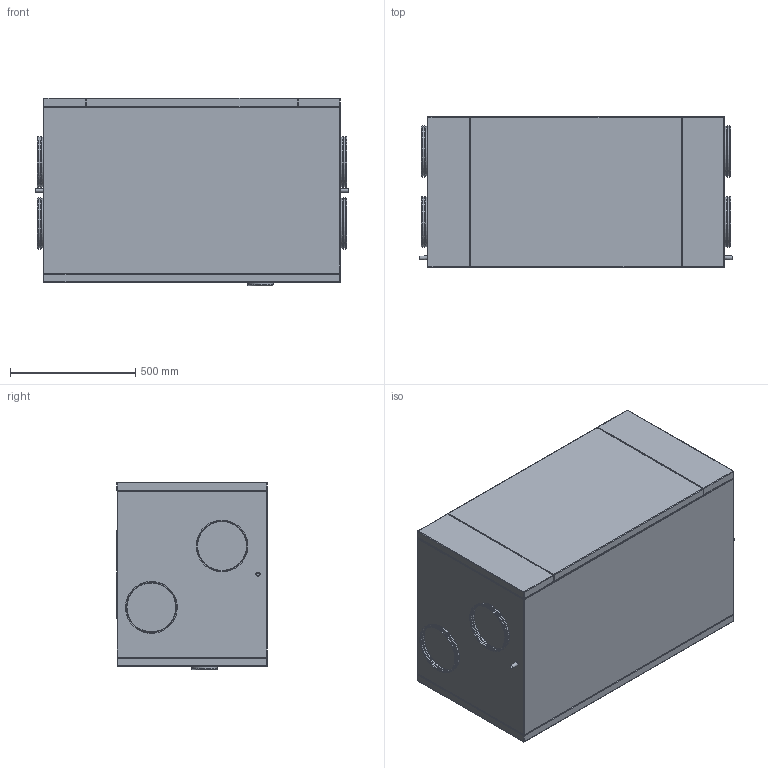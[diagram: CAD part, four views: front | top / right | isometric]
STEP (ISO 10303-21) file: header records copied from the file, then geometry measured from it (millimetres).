
FILE_DESCRIPTION(/* description */ (''),/* implementation_level */ '2;1');
FILE_NAME(/* name */ 'C:\WF Home\Thomas Mønsted\01 - Ventilation\014008 - Premium preheat 500\Premium preheat 500 - Right - BIM.stp',/* time_stamp */ '2019-10-22T11:47:15+02:00',/* author */ ('3113thmo'),/* organization */ (''),/* preprocessor_version */ 'ST-DEVELOPER v16.13',/* originating_system */ 'Autodesk Inventor 2018',/* authorisation */ '');
FILE_SCHEMA (('AUTOMOTIVE_DESIGN { 1 0 10303 214 3 1 1 }'));
Length unit declared in the file: millimetre
Products named in the file (1): Premium preheat 500 - Right - BIM
Bounding box: 1251.91 x 601.7 x 748.32 mm (x, y, z)
Volume: 520789575.8 mm3; surface area: 4336209.4 mm2
Topology: 1 solids, 2 shells, 551 faces, 1264 edges, 754 vertices
Faces by surface type: plane 304, cylinder 170, cone 36, torus 33, sphere 8
Full cylindrical faces by diameter (mm): 8 x2, 10.5 x2, 13.5 x2, 14 x2, 15 x4, 17.5 x2, 19 x2, 101.5 x2, 195 x4, 197 x8, 198 x4, 199 x12, 200 x8, 207 x8
Entity records: 14803 total; most frequent: DIRECTION 2575, CARTESIAN_POINT 2373, ORIENTED_EDGE 2200, EDGE_CURVE 1100, AXIS2_PLACEMENT_3D 923, LINE 729, VECTOR 729, EDGE_LOOP 723
